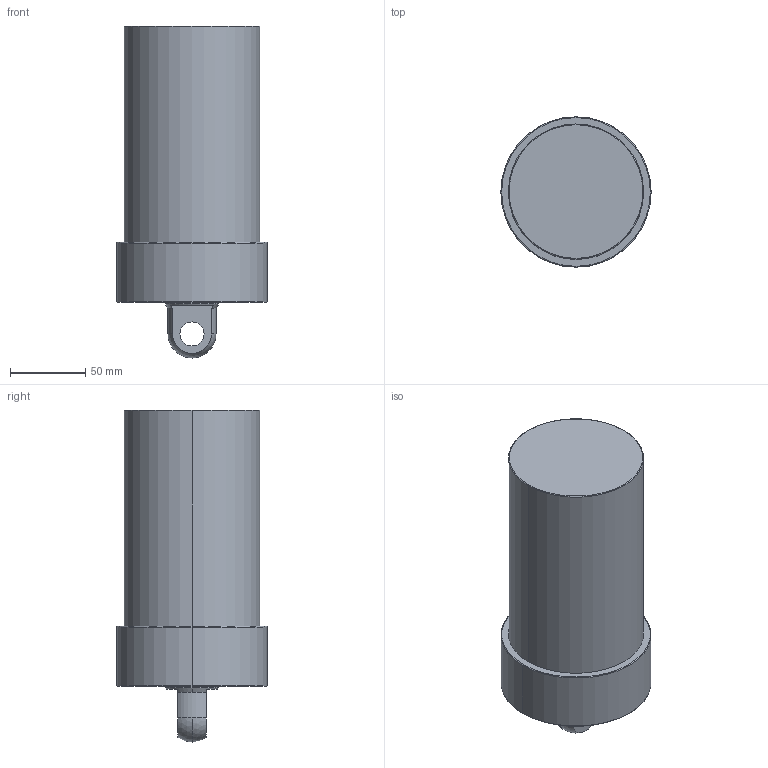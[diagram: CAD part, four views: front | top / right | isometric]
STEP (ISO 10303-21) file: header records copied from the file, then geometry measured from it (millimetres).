
FILE_DESCRIPTION (( 'STEP AP203' ), '1' );
FILE_NAME ('CLLU-090GP-100.STEP', '2020-01-15T01:46:10', ( '' ), ( '' ), 'SwSTEP 2.0', 'SolidWorks 2015', '' );
FILE_SCHEMA (( 'CONFIG_CONTROL_DESIGN' ));
Length unit declared in the file: millimetre
Products named in the file (1): CLLU-090GP-100
Bounding box: 100 x 100 x 221 mm (x, y, z)
Volume: 1239250.6 mm3; surface area: 75170.4 mm2
Topology: 1 solids, 1 shells, 58 faces, 131 edges, 75 vertices
Faces by surface type: cylinder 23, cone 18, plane 9, torus 6, sphere 2
Entity records: 1658 total; most frequent: DIRECTION 311, CARTESIAN_POINT 269, ORIENTED_EDGE 246, AXIS2_PLACEMENT_3D 133, EDGE_CURVE 123, VERTEX_POINT 75, CIRCLE 74, EDGE_LOOP 68
